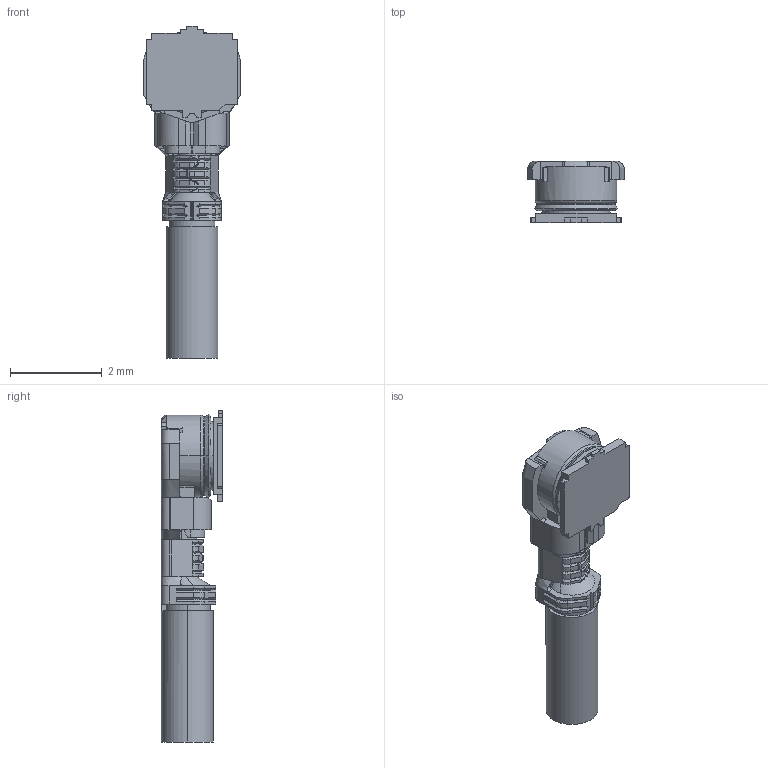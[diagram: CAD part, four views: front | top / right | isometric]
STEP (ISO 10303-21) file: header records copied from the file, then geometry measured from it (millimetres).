
FILE_DESCRIPTION (( 'STEP AP203' ), '1' );
FILE_NAME ('20449-001E+20565-001R-13C MATING STEP R5R8 ALL.STEP', '2018-04-23T11:51:11', ( '' ), ( '' ), 'SwSTEP 2.0', 'SolidWorks 2017', '' );
FILE_SCHEMA (( 'CONFIG_CONTROL_DESIGN' ));
Length unit declared in the file: millimetre
Products named in the file (1): 20449-001E+20565-001R-13C MATING STEP R5R8 ALL
Bounding box: 2.1 x 1.33 x 7.22 mm (x, y, z)
Volume: 9.3 mm3; surface area: 42.2 mm2
Topology: 1 solids, 1 shells, 383 faces, 1012 edges, 637 vertices
Faces by surface type: plane 222, cylinder 85, cone 38, bspline 31, torus 7
Entity records: 13434 total; most frequent: CARTESIAN_POINT 4192, ORIENTED_EDGE 2024, DIRECTION 1767, EDGE_CURVE 1012, LINE 683, VECTOR 683, VERTEX_POINT 637, AXIS2_PLACEMENT_3D 542
